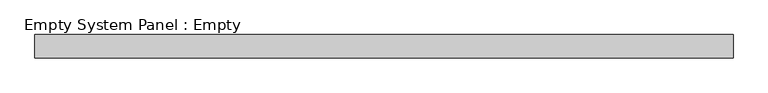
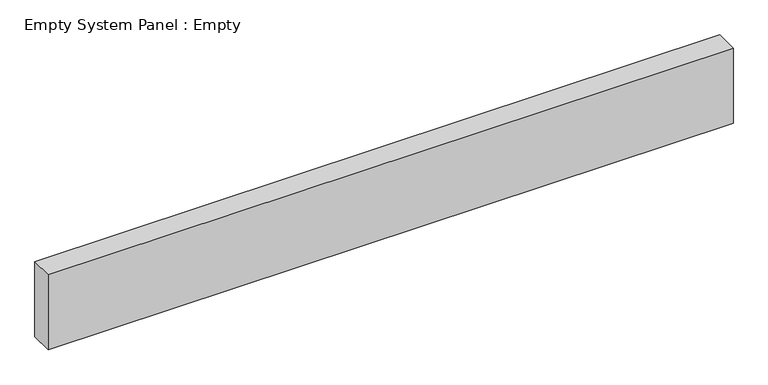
"""IFC4 building model written with IfcOpenShell, lengths in millimetres: plate geometry, Empty System Panel : Empty."""

import ifcopenshell
import ifcopenshell.guid

model = None  # the IFC model being written
_history = None  # IfcOwnerHistory: only IFC2X3 demands one
_inside = {}  # id of a spatial element -> (the spatial element, [elements in it])
_under = {}  # id of a project, library or spatial element -> (it, [spatial elements below it])
_declared = {}  # id of a project -> (the project, [libraries it declares])
_typed = {}  # id of a type object -> (the type object, [elements of that type])
_made_of = {}  # id of a material, layer set ... -> (it, [elements and type objects made of it])


def new_model(schema):
    """Start an empty IFC model of exactly this schema.

    Asked for "IFC4X3", IfcOpenShell would pick the latest addendum, in which some entities
    have other attributes; the version numbers below select the first issue.
    IFC2X3 requires an IfcOwnerHistory on every rooted entity: one is made here for all.
    """
    global model, _history
    if schema == "IFC4X3":
        model = ifcopenshell.file(schema_version=(4, 3, 0, 0))
    else:
        model = ifcopenshell.file(schema=schema)
    _inside.clear()
    _under.clear()
    _declared.clear()
    _typed.clear()
    _made_of.clear()
    _history = None
    if model.schema == "IFC2X3":
        org = make("IfcOrganization", Name="unknown")
        user = make(
            "IfcPersonAndOrganization",
            ThePerson=make("IfcPerson", FamilyName="unknown"),
            TheOrganization=org,
        )
        app = make(
            "IfcApplication",
            ApplicationDeveloper=org,
            Version="unknown",
            ApplicationFullName="unknown",
            ApplicationIdentifier="unknown",
        )
        _history = make(
            "IfcOwnerHistory",
            OwningUser=user,
            OwningApplication=app,
            ChangeAction="ADDED",
            CreationDate=0,
        )
    return model


def make(cls, **values):
    """One entity of the class cls with the attributes given. An attribute that is None is left unset."""
    return model.create_entity(
        cls, **{name: value for name, value in values.items() if value is not None}
    )


def rooted(cls, **values):
    """An entity with a GlobalId (a new one), such as an element, a storey or a relation."""
    return make(cls, GlobalId=ifcopenshell.guid.new(), OwnerHistory=_history, **values)


def si_unit(unit_type, name, prefix=None):
    """IfcSIUnit, for example si_unit("LENGTHUNIT", "METRE", prefix="MILLI")."""
    return make("IfcSIUnit", UnitType=unit_type, Prefix=prefix, Name=name)


def assignment(units):
    """IfcUnitAssignment: the units of a project."""
    return None if units is None else make("IfcUnitAssignment", Units=units)


def point(xyz):
    """IfcCartesianPoint."""
    return None if xyz is None else make("IfcCartesianPoint", Coordinates=xyz)


def direction(xyz):
    """IfcDirection."""
    return None if xyz is None else make("IfcDirection", DirectionRatios=xyz)


def frame(location, z_axis=None, x_axis=None):
    """IfcAxis2Placement3D, a coordinate frame: its origin and axes. An axis left out is left unset."""
    return make(
        "IfcAxis2Placement3D",
        Location=point(location),
        Axis=direction(z_axis),
        RefDirection=direction(x_axis),
    )


def origin():
    """The frame at (0, 0, 0) with its axes left unset."""
    return frame((0.0, 0.0, 0.0))


def origin_with_axes():
    """The frame at (0, 0, 0) with the z axis (0, 0, 1) and the x axis (1, 0, 0) written out."""
    return frame((0.0, 0.0, 0.0), z_axis=(0.0, 0.0, 1.0), x_axis=(1.0, 0.0, 0.0))


def place(relative_to, where):
    """IfcLocalPlacement: puts the frame where relative to a parent placement (None: the world)."""
    return make(
        "IfcLocalPlacement", PlacementRelTo=relative_to, RelativePlacement=where
    )


def context(
    kind, dimensions, precision=None, world=None, true_north=None, identifier=None
):
    """IfcGeometricRepresentationContext, for example the 3D "Model" context."""
    return make(
        "IfcGeometricRepresentationContext",
        ContextIdentifier=identifier,
        ContextType=kind,
        CoordinateSpaceDimension=dimensions,
        Precision=precision,
        WorldCoordinateSystem=world,
        TrueNorth=true_north,
    )


def project(units=None, contexts=None):
    """IfcProject with its units and contexts."""
    return rooted(
        "IfcProject",
        Name="project",
        RepresentationContexts=contexts,
        UnitsInContext=assignment(units),
    )


def spatial(cls, under=None, at=None, **own):
    """A site, building, storey or space (cls), placed at a placement, below another one or the project."""
    s = rooted(cls, ObjectPlacement=at, **own)
    if under is not None:
        _under.setdefault(under.id(), (under, []))[1].append(s)
    return s


def polyline(points):
    """IfcPolyline through the points."""
    return make("IfcPolyline", Points=[point(p) for p in points])


def outline(outer, holes=None, kind="AREA"):
    """IfcArbitraryClosedProfileDef: a profile drawn as a closed curve; with holes, ...WithVoids."""
    if holes is None:
        return make("IfcArbitraryClosedProfileDef", ProfileType=kind, OuterCurve=outer)
    return make(
        "IfcArbitraryProfileDefWithVoids",
        ProfileType=kind,
        OuterCurve=outer,
        InnerCurves=holes,
    )


def extrude(swept, where, along, depth):
    """IfcExtrudedAreaSolid: the profile swept, set in the frame where, extruded along a direction by depth."""
    return make(
        "IfcExtrudedAreaSolid",
        SweptArea=swept,
        Position=where,
        ExtrudedDirection=direction(along),
        Depth=depth,
    )


def shape(context_of_items, identifier, shape_type, items):
    """IfcShapeRepresentation: the items that make up one representation, for example the "Body"."""
    return make(
        "IfcShapeRepresentation",
        ContextOfItems=context_of_items,
        RepresentationIdentifier=identifier,
        RepresentationType=shape_type,
        Items=items,
    )


def source(mapping_origin, context_of_items, identifier, shape_type, items):
    """IfcRepresentationMap: a shape defined once, which mapped items show again and again."""
    return make(
        "IfcRepresentationMap",
        MappingOrigin=mapping_origin,
        MappedRepresentation=shape(context_of_items, identifier, shape_type, items),
    )


def transform(
    local_origin,
    x_axis=None,
    y_axis=None,
    z_axis=None,
    scale=None,
    scale2=None,
    scale3=None,
    uniform=True,
):
    """IfcCartesianTransformationOperator3D, or its non-uniform kind. x_axis, y_axis, z_axis: its Axis1, 2, 3."""
    if uniform:
        return make(
            "IfcCartesianTransformationOperator3D",
            Axis1=direction(x_axis),
            Axis2=direction(y_axis),
            LocalOrigin=point(local_origin),
            Scale=scale,
            Axis3=direction(z_axis),
        )
    return make(
        "IfcCartesianTransformationOperator3DnonUniform",
        Axis1=direction(x_axis),
        Axis2=direction(y_axis),
        LocalOrigin=point(local_origin),
        Scale=scale,
        Axis3=direction(z_axis),
        Scale2=scale2,
        Scale3=scale3,
    )


def mapped(mapping_source, mapping_target):
    """IfcMappedItem: shows the shape of a source again, moved by a transform."""
    return make(
        "IfcMappedItem", MappingSource=mapping_source, MappingTarget=mapping_target
    )


def made_of(thing, what):
    """Note that an element or type object is made of a material, layer set ...; save() writes the relation."""
    if what is not None:
        _made_of.setdefault(what.id(), (what, []))[1].append(thing)
    return thing


def element(
    cls,
    number,
    at=None,
    inside=None,
    cuts=None,
    type_object=None,
    material=None,
    context=None,
    identifier="Body",
    shape_type=None,
    held_by="IfcProductDefinitionShape",
    body=None,
    shapes=None,
    **own,
):
    """One element of the class cls, such as IfcWall. Its Tag is "e" and its number.

    at: its placement. inside: the storey or other place that contains it. cuts: it is an
    opening in that element (IfcRelVoidsElement). A single representation is given by context,
    identifier, shape_type and body (its items); several are given by shapes. held_by: the class
    of the entity that holds the representations. save() writes the other relations.
    """
    e = rooted(cls, Tag="e%d" % number, ObjectPlacement=at, **own)
    if body is not None:
        shapes = [shape(context, identifier, shape_type, body)]
    if shapes is not None:
        e.Representation = make(held_by, Representations=shapes)
    if inside is not None:
        _inside.setdefault(inside.id(), (inside, []))[1].append(e)
    if cuts is not None:
        rooted(
            "IfcRelVoidsElement", RelatingBuildingElement=cuts, RelatedOpeningElement=e
        )
    if type_object is not None:
        _typed.setdefault(type_object.id(), (type_object, []))[1].append(e)
    return made_of(e, material)


def aggregate(whole, parts):
    """IfcRelAggregates: a whole, such as a stair, and the parts it consists of."""
    return rooted("IfcRelAggregates", RelatingObject=whole, RelatedObjects=parts)


def save(model, path):
    """Write the relations noted so far, then the file.

    IfcRelAggregates (storeys below a building ...), IfcRelContainedInSpatialStructure (elements
    in a storey), IfcRelDefinesByType, IfcRelAssociatesMaterial and IfcRelDeclares: one each for
    every whole, place, type object, material and project.
    """
    for whole, parts in _under.values():
        aggregate(whole, parts)
    for where, things in _inside.values():
        rooted(
            "IfcRelContainedInSpatialStructure",
            RelatedElements=things,
            RelatingStructure=where,
        )
    for kind, things in _typed.values():
        rooted("IfcRelDefinesByType", RelatedObjects=things, RelatingType=kind)
    for what, things in _made_of.values():
        rooted("IfcRelAssociatesMaterial", RelatedObjects=things, RelatingMaterial=what)
    for by, libraries in _declared.values():
        rooted("IfcRelDeclares", RelatingContext=by, RelatedDefinitions=libraries)
    model.write(path)


def empty_system_panel_empty_409dc61d(model_context):
    return source(origin(), model_context, "Body", "SweptSolid", [
        extrude(outline(polyline([(1500.0, -50.0), (-1500.0, -50.0), (-1500.0, 50.0), (1500.0, 50.0), (1500.0, -50.0)])), origin_with_axes(), (0.0, 0.0, 1.0), 347.6740982),
    ])


if __name__ == "__main__":
    model = new_model("IFC4")
    model_context = context("Model", 3, world=origin())
    ifc_project = project(units=[si_unit("LENGTHUNIT", "METRE", prefix="MILLI")], contexts=[model_context])
    site = spatial("IfcSite", under=ifc_project)
    building = spatial("IfcBuilding", under=site)
    placement = place(None, origin())
    empty_system_panel_empty_shape = empty_system_panel_empty_409dc61d(model_context)
    element("IfcPlate", 1, ObjectType="Empty System Panel : Empty", at=placement, inside=building, context=model_context, shape_type="MappedRepresentation", body=[
        mapped(empty_system_panel_empty_shape, transform((0.0, 0.0, 0.0), x_axis=(1.0, 0.0, 0.0), y_axis=(0.0, 1.0, 0.0), z_axis=(0.0, 0.0, 1.0))),
    ])
    save(model, "model.ifc")
